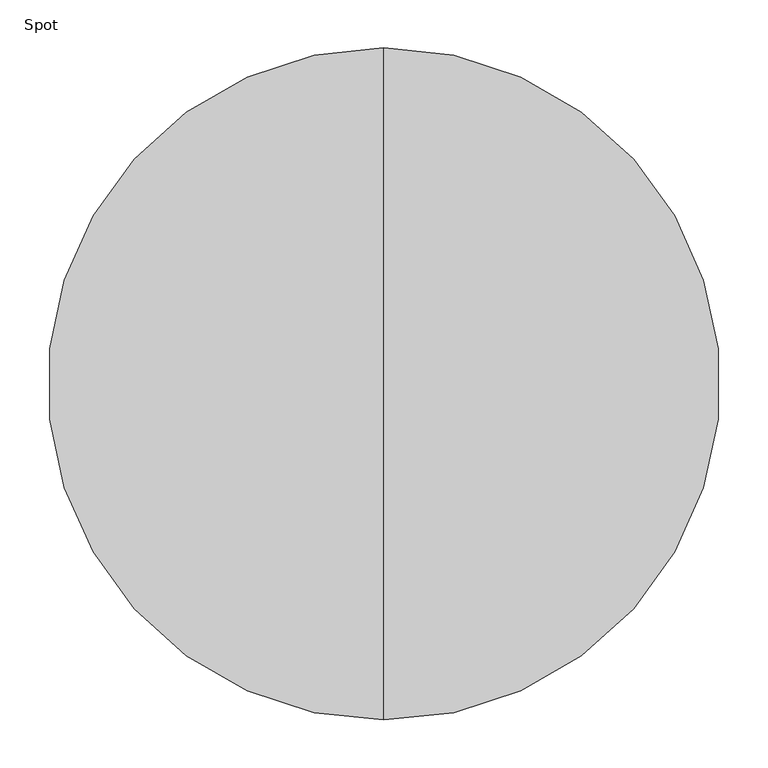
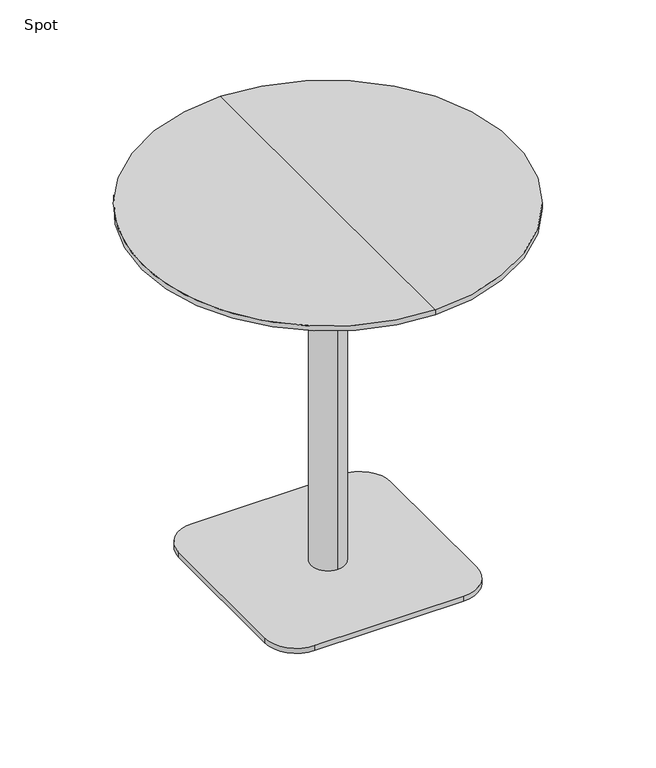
"""IFC4 building model written with IfcOpenShell, lengths in millimetres: furniture geometry, Spot : ø70x72s."""

from ifc_helpers import new_model, si_unit, point, frame, frame_2d, origin, origin_with_axes, place, context, project, spatial, polyline, circle_curve, trimmed, segment, composite_curve, outline, extrude, source, transform, mapped, element, save
from ifc_brep_helpers import plane_surface, cylinder_surface, revolved_surface, advanced_brep


def spot_db446fd1(model_context):
    return source(origin(), model_context, "Body", "SolidModel", [
        advanced_brep(
        [(0.0, -350.0, 720.0), (0.0, 350.0, 720.0), (0.0, 0.0, 720.0), (0.0, 350.0, 710.25), (0.0, -350.0, 710.25), (0.0, 0.0, 698.0), (0.0, -304.2823776, 698.0), (0.0, 304.2823776, 698.0)],
        [
            (0, 1, circle_curve(frame((0.0, 0.0, 720.0), z_axis=(0.0, 0.0, 1.0), x_axis=(0.0, -1.0, 0.0)), 350.0)),
            (1, 2),
            (2, 0),
            (3, 4, circle_curve(frame((0.0, 0.0, 710.25), z_axis=(0.0, 0.0, 1.0), x_axis=(0.0, -1.0, 0.0)), 350.0)),
            (4, 0),
            (0, 1, circle_curve(frame((0.0, 0.0, 720.0), z_axis=(0.0, 0.0, -1.0), x_axis=(0.0, -1.0, 0.0)), 350.0)),
            (1, 3),
            (5, 6),
            (6, 7, circle_curve(frame((0.0, 0.0, 698.0), z_axis=(0.0, 0.0, -1.0), x_axis=(0.0, -1.0, 0.0)), 304.2823776)),
            (7, 5),
            (7, 6, circle_curve(frame((0.0, 0.0, 698.0), z_axis=(0.0, 0.0, -1.0), x_axis=(0.0, -1.0, 0.0)), 304.2823776)),
            (4, 3, circle_curve(frame((0.0, 0.0, 710.25), z_axis=(0.0, 0.0, 1.0), x_axis=(0.0, -1.0, 0.0)), 350.0)),
            (6, 4),
            (3, 7),
        ],
        [
            plane_surface(frame((0.0, 0.0, 720.0), z_axis=(0.0, 0.0, 1.0), x_axis=(0.0, -1.0, 0.0))),
            cylinder_surface(frame((0.0, 0.0, 800.0), z_axis=(0.0, 0.0, -1.0), x_axis=(0.0, -1.0, 0.0)), 350.0),
            plane_surface(frame((0.0, 0.0, 698.0), z_axis=(0.0, 0.0, -1.0), x_axis=(0.0, -1.0, 0.0))),
            revolved_surface(polyline([(0.0, -350.0, 710.25), (0.0, -304.2823776, 698.0)]), (0.0, 0.0, 800.0), (0.0, 0.0, -1.0)),
        ],
        [
            (0, [[1, 2, 3]]),
            (1, [[4, 5, 6, 7]]),
            (2, [[8, 9, 10]]),
            (2, [[-10, 11, -8]]),
            (0, [[-6, -3, -2]]),
            (1, [[12, -7, -1, -5]]),
            (3, [[-9, 13, -4, 14]]),
            (3, [[-11, -14, -12, -13]]),
        ],
    ),
        extrude(outline(composite_curve([segment(trimmed(circle_curve(frame_2d((140.0, 140.0)), 60.0), [point((140.0, 200.0))], [point((200.0, 140.0))], False, "CARTESIAN"), True, "CONTINUOUS"), segment(polyline([(200.0, 140.0), (200.0, -140.0)]), True, "CONTINUOUS"), segment(trimmed(circle_curve(frame_2d((140.0, -140.0)), 60.0), [point((200.0, -140.0))], [point((140.0, -200.0))], False, "CARTESIAN"), True, "CONTINUOUS"), segment(polyline([(140.0, -200.0), (-140.0, -200.0)]), True, "CONTINUOUS"), segment(trimmed(circle_curve(frame_2d((-140.0, -140.0)), 60.0), [point((-140.0, -200.0))], [point((-200.0, -140.0))], False, "CARTESIAN"), True, "CONTINUOUS"), segment(polyline([(-200.0, -140.0), (-200.0, 140.0)]), True, "CONTINUOUS"), segment(trimmed(circle_curve(frame_2d((-140.0, 140.0)), 60.0), [point((-200.0, 140.0))], [point((-140.0, 200.0))], False, "CARTESIAN"), True, "CONTINUOUS"), segment(polyline([(-140.0, 200.0), (140.0, 200.0)]), True, "CONTINUOUS")], self_intersect=False)), origin_with_axes(), (0.0, 0.0, 1.0), 10.0),
        advanced_brep(
        [(0.0, 32.0, 10.0), (0.0, -32.0, 10.0), (0.0, -32.0, 667.406916), (0.0, 32.0, 667.406916), (0.0, 0.0, 10.0), (0.0, 150.0, 698.0), (0.0, -150.0, 698.0), (0.0, 0.0, 698.0), (0.0, 150.0, 686.7213673), (0.0, -150.0, 686.7213673)],
        [
            (0, 1, circle_curve(frame((0.0, 0.0, 10.0), z_axis=(0.0, 0.0, 1.0), x_axis=(0.0, -1.0, 0.0)), 32.0)),
            (1, 2),
            (2, 3, circle_curve(frame((0.0, 0.0, 667.406916), z_axis=(0.0, 0.0, -1.0), x_axis=(0.0, -1.0, 0.0)), 32.0)),
            (3, 0),
            (1, 0, circle_curve(frame((0.0, 0.0, 10.0), z_axis=(0.0, 0.0, 1.0), x_axis=(0.0, -1.0, 0.0)), 32.0)),
            (3, 2, circle_curve(frame((0.0, 0.0, 667.406916), z_axis=(0.0, 0.0, -1.0), x_axis=(0.0, -1.0, 0.0)), 32.0)),
            (4, 1),
            (0, 4),
            (5, 6, circle_curve(frame((0.0, 0.0, 698.0), z_axis=(0.0, 0.0, 1.0), x_axis=(0.0, -1.0, 0.0)), 150.0)),
            (6, 7),
            (7, 5),
            (6, 5, circle_curve(frame((0.0, 0.0, 698.0), z_axis=(0.0, 0.0, 1.0), x_axis=(0.0, -1.0, 0.0)), 150.0)),
            (8, 9, circle_curve(frame((0.0, 0.0, 686.7213673), z_axis=(0.0, 0.0, 1.0), x_axis=(0.0, -1.0, 0.0)), 150.0)),
            (9, 6),
            (5, 8),
            (9, 8, circle_curve(frame((0.0, 0.0, 686.7213673), z_axis=(0.0, 0.0, 1.0), x_axis=(0.0, -1.0, 0.0)), 150.0)),
            (2, 9),
            (8, 3),
        ],
        [
            cylinder_surface(frame((0.0, 0.0, 1060.0), z_axis=(0.0, 0.0, -1.0), x_axis=(0.0, -1.0, 0.0)), 32.0),
            plane_surface(frame((0.0, 0.0, 10.0), z_axis=(0.0, 0.0, -1.0), x_axis=(0.0, -1.0, 0.0))),
            plane_surface(frame((0.0, 0.0, 698.0), z_axis=(0.0, 0.0, 1.0), x_axis=(0.0, -1.0, 0.0))),
            cylinder_surface(frame((0.0, 0.0, 1060.0), z_axis=(0.0, 0.0, -1.0), x_axis=(0.0, -1.0, 0.0)), 150.0),
            revolved_surface(polyline([(0.0, -150.0, 686.7213673), (0.0, -32.0, 667.406916)]), (0.0, 0.0, 1060.0), (0.0, 0.0, -1.0)),
        ],
        [
            (0, [[1, 2, 3, 4]]),
            (0, [[5, -4, 6, -2]]),
            (1, [[7, -1, 8]]),
            (1, [[-8, -5, -7]]),
            (2, [[9, 10, 11]]),
            (2, [[12, -11, -10]]),
            (3, [[13, 14, -9, 15]]),
            (3, [[16, -15, -12, -14]]),
            (4, [[-3, 17, -13, 18]]),
            (4, [[-6, -18, -16, -17]]),
        ],
    ),
        extrude(outline(polyline([(0.0, 0.0), (-20.0, 0.0), (-20.0, 20.0), (0.0, 20.0), (0.0, 0.0)])), origin_with_axes(), (0.0, 0.0, 1.0), 10.0),
    ])


if __name__ == "__main__":
    model = new_model("IFC4")
    model_context = context("Model", 3, world=origin())
    ifc_project = project(units=[si_unit("LENGTHUNIT", "METRE", prefix="MILLI")], contexts=[model_context])
    site = spatial("IfcSite", under=ifc_project)
    building = spatial("IfcBuilding", under=site)
    placement = place(None, origin())
    spot_shape = spot_db446fd1(model_context)
    element("IfcFurniture", 1, ObjectType="Spot : ø70x72s", at=placement, inside=building, context=model_context, shape_type="MappedRepresentation", body=[
        mapped(spot_shape, transform((0.0, 0.0, 0.0), x_axis=(1.0, 0.0, 0.0), y_axis=(0.0, 1.0, 0.0), z_axis=(0.0, 0.0, 1.0))),
    ])
    save(model, "model.ifc")
